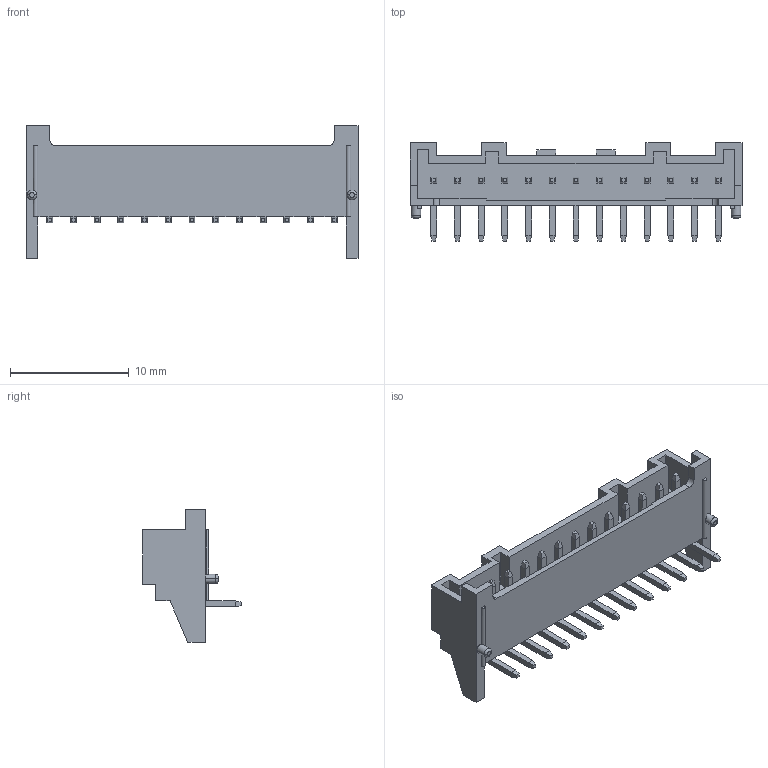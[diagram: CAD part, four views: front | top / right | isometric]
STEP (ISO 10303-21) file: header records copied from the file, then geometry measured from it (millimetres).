
FILE_DESCRIPTION(('CATIA V5 STEP Exchange'),'2;1');
FILE_NAME('F:\小黄\条形连接器\2.00系列\06--PA\NAWDS\HC-PA-13AWDS-05（2.00 单排 定位弯针 带柱-HCTL）.stp','2025-09-28T08:51:03+00:00',('none'),('none'),'CATIA Version 5 Release 20 GA (IN-10)','CATIA V5 STEP AP203','none');
FILE_SCHEMA(('CONFIG_CONTROL_DESIGN'));
Length unit declared in the file: millimetre
Products named in the file (1): Part4
Bounding box: 28 x 8.3 x 11.2 mm (x, y, z)
Volume: 518.3 mm3; surface area: 1177.5 mm2
Topology: 1 solids, 1 shells, 335 faces, 840 edges, 522 vertices
Faces by surface type: plane 310, cylinder 21, torus 4
Entity records: 8764 total; most frequent: ORIENTED_EDGE 1680, CARTESIAN_POINT 1550, DIRECTION 1122, EDGE_CURVE 840, VECTOR 786, LINE 786, VERTEX_POINT 522, EDGE_LOOP 352
